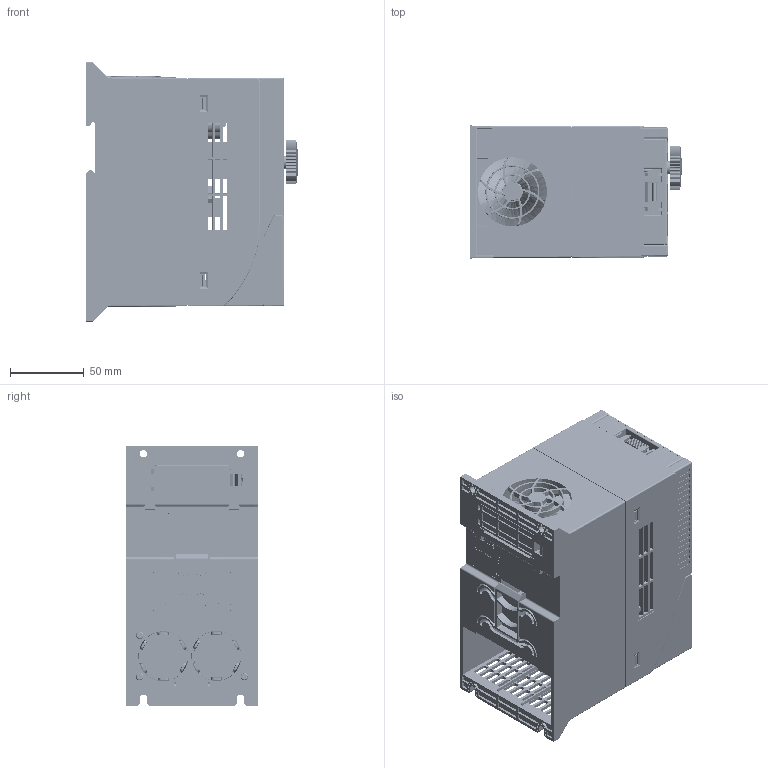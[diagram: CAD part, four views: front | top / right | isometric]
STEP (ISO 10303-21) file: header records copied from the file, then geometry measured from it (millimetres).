
FILE_DESCRIPTION((''),'2;1');
FILE_NAME('E160-2R2GT4_ASM','2022-12-07T',('500081'),(''),'CREO PARAMETRIC BY PTC INC, 2014350','CREO PARAMETRIC BY PTC INC, 2014350','');
FILE_SCHEMA(('CONFIG_CONTROL_DESIGN'));
Products named in the file (42): E160-2R2GT4C1-MP01; E160-2R2GT4C1-MP02; E160-2R2GT4C1-MP03; E160-2R2GT4C1-MP04; BSP-75X10MM; E160-2R2GT4C1-MA01_ASM; E160-VFDB-2R2T4-1; E160-VFDB-2R2T4-2; BRTB825-02-09; M4-8X8-; KNP-15W-10O-J-43X8MM; E160-VFDB-2R2T4_ASM; E160-1R5KZ-PCB; KZB-DZZ; JP_KZ-21X9X19MM; E160-KZZJ-2R2T4_ASM; ZLFJ-5020; LCI-25; TUZHU-M3X25; M3-8; TUZHU-M3X17-6; E160-FLZJ-2R2T4_ASM; E160-PCB-ZJ-2R2T4_ASM; JP_JIANPANKE; JP_BOLIBAN; JP_MIANMO; JP_MIANMO_ASM; JP_Z_ASM; JP_PCB; 2P-SHUMAGUAN; 3P-SHUMAGUAN; 5PP_ASM; JP_BIANMAQI; JP_QINGCHUKAIGUAN; JP_GONGTOU; JP_LED; JP_PCB_ASM; JP_XUANNIU; JP_JIANPANGAI; JP_JIANPANGAI_ASM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
Assembly tree (69 placements, depth 5):
  E160-2R2GT4_ASM
    E160-2R2GT4C1-MA01_ASM
      E160-2R2GT4C1-MP01
      E160-2R2GT4C1-MP02
      E160-2R2GT4C1-MP03
      E160-2R2GT4C1-MP04
      BSP-75X10MM
    E160-PCB-ZJ-2R2T4_ASM
      E160-VFDB-2R2T4_ASM
        E160-VFDB-2R2T4-1
        E160-VFDB-2R2T4-2
        BRTB825-02-09
        M4-8X8-  x9
        KNP-15W-10O-J-43X8MM
      E160-KZZJ-2R2T4_ASM
        E160-1R5KZ-PCB
        KZB-DZZ
        JP_KZ-21X9X19MM
      E160-FLZJ-2R2T4_ASM
        ZLFJ-5020
        LCI-25  x3
        TUZHU-M3X25
        M3-8  x5
        TUZHU-M3X17-6
    BH-E200-JP-ZJ_ASM
      JP_Z_ASM
        JP_JIANPANKE
        JP_BOLIBAN
        JP_MIANMO_ASM
          JP_MIANMO
      JP_PCB_ASM
        JP_PCB
        5PP_ASM
          2P-SHUMAGUAN
          3P-SHUMAGUAN
        JP_BIANMAQI
        JP_QINGCHUKAIGUAN  x9
        JP_GONGTOU
        JP_LED  x7
      JP_XUANNIU
      JP_JIANPANGAI_ASM
        JP_JIANPANGAI
Bounding box: 144.3 x 90 x 176 mm (x, y, z)
Volume: 423314.2 mm3; surface area: 434209 mm2
Topology: 59 solids, 69 shells, 10890 faces, 29094 edges, 18970 vertices
Faces by surface type: plane 7912, cylinder 1815, cone 344, extrusion 295, torus 285, bspline 188, sphere 45, revolution 6
Entity records: 414751 total; most frequent: CARTESIAN_POINT 67271, ORIENTED_EDGE 52976, DIRECTION 48661, PRESENTATION_STYLE_ASSIGNMENT 28098, STYLED_ITEM 26598, EDGE_CURVE 26500, CURVE_STYLE 26478, VECTOR 20837
